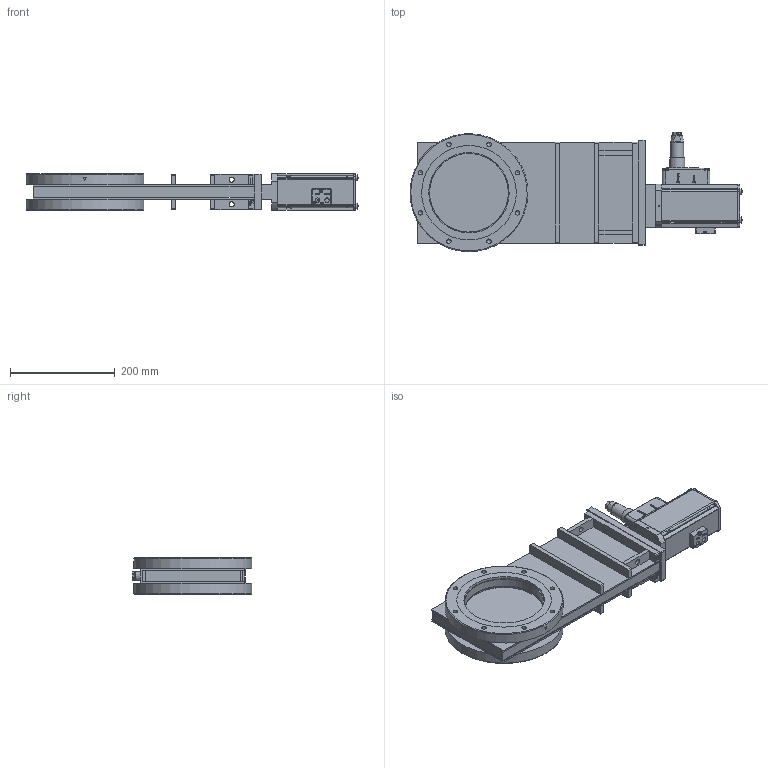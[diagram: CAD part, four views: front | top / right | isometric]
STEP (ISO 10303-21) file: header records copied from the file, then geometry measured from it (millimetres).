
FILE_DESCRIPTION(/* description */ (''),/* implementation_level */ '2;1');
FILE_NAME(/* name */ '1018624296_203.stp',/* time_stamp */ '2016-09-15T07:40:22+02:00',/* author */ (''),/* organization */ (''),/* preprocessor_version */ 'ST-DEVELOPER v15',/* originating_system */ 'SIEMENS PLM Software NX 9.0',/* authorisation */ '');
FILE_SCHEMA (('AP203_CONFIGURATION_CONTROLLED_3D_DESIGN_OF_MECHANICAL_PARTS_AND_ASSEMBLIES_MIM_LF { 1 0 10303 403 2 1 2}'));
Products named in the file (53): 500156; 800510; 387037; 800510_23974ID; 804858_23983ID; 804850_24006ID; 804857_24004ID; 804857_24003ID; 804844_24002ID; 804853_24001ID; 804858_24000ID; 804844_23999ID; 804857_23997ID; 804858_23996ID; 804853_23995ID; 804845_23993ID; 804845_23992ID; 804857_23990ID; 804858_23984ID; 70986-01.1; N-6240-008.1; N-6195-007.2; 71055-01.1; n-6011-049.1; 70973-01.1; 23550-01.1; 23550-01.1_23988ID; n-6099-492.1; n-6024-526; N-7100-014_2.1; 94828-01.1; N-7100-012_3.1; 70987-01.1; n-6024-548.1; 70988-01.1; n-8504-002; N-6024-571.1; 85948-01.1; 94223-01.1; 73004-01.1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
Assembly tree (81 placements, depth 5):
  854589
    93160-01.1
    72872-01.1
    69129.1
    94236-r1.3
      73004-01.1  x4
      94223-01.1
      85948-01.1
      N-6024-571.1  x4
    81045-r1.2_MODEL
      n-8504-002
      387035_MODEL
        70973-01.1
        n-6011-049.1  x2
        387036_MODELNX-ARRAGMNTMikroschalter neue Höhe
          800510_23974ID
          387037
          800510
          500156
      70988-01.1  x2
      n-6024-548.1  x4
      70987-01.1
      73638-r1.1
        71055-01.1  x4
        N-6195-007.2  x4
        N-6240-008.1  x2
        70986-01.1
    218198.1  x10
    94827-r1.1
      N-7100-012_3.1
      94828-01.1
      N-7100-014_2.1
      n-6024-526  x2
    23443-r1.1_MODEL
      804898_MODEL
        804858_23984ID
        804857_23990ID
        804845_23992ID
        804845_23993ID
        804853_23995ID
        804858_23996ID
        804857_23997ID
        804844_23999ID
        804858_24000ID
        804853_24001ID
        804844_24002ID
        804857_24003ID
        804857_24004ID
        804850_24006ID
        804858_23983ID
      n-6099-492.1  x2
      23550-01.1_23988ID
      23550-01.1
Bounding box: 632.71 x 227.88 x 70 mm (x, y, z)
Volume: 2791522 mm3; surface area: 872687.6 mm2
Topology: 111 solids, 111 shells, 3406 faces, 8729 edges, 5825 vertices
Faces by surface type: plane 2183, cylinder 763, cone 143, extrusion 112, torus 94, bspline 94, sphere 17
Full cylindrical faces by diameter (mm): 0.5 x1, 1 x7, 1.1 x14, 1.5 x11, 1.6 x14, 1.66 x7, 1.97 x4, 2 x30, 2.125 x1, 2.265 x2, 2.46 x2, 2.5 x25, 2.65 x1, 3 x7, 3.3 x6, 3.4 x2, 3.5 x1, 3.8 x2, 4 x4, 4.2 x4, 4.4 x4, 4.45 x4, 4.625 x2, 4.75 x8, 5 x4, 5.9 x1, 6 x16, 6.35 x2, 6.6 x4, 6.625 x2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
Entity records: 110049 total; most frequent: CARTESIAN_POINT 31338, ORIENTED_EDGE 13682, DIRECTION 12531, EDGE_CURVE 6841, VERTEX_POINT 4852, AXIS2_PLACEMENT_3D 4273, VECTOR 3985, LINE 3873
